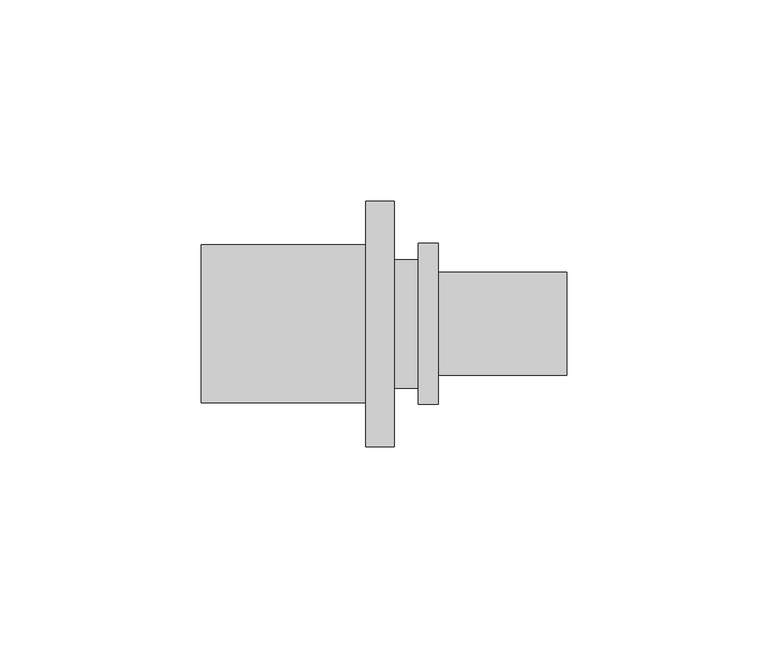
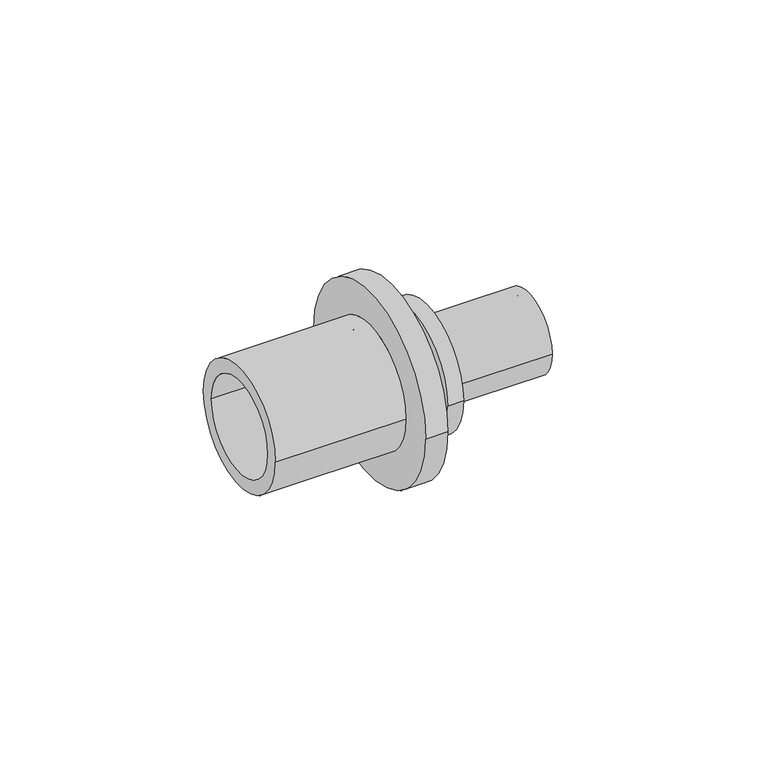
"""IFC4 building model written with IfcOpenShell, lengths in millimetres: pipe fitting geometry, RAUTITAN_Transition_RX+ : RTI RX+ Tr DE."""

from ifc_helpers import new_model, si_unit, frame, origin, place, context, project, spatial, polyline, circle_curve, source, transform, mapped, element, save
from ifc_brep_helpers import plane_surface, cylinder_surface, revolved_surface, advanced_brep


def pipe_fitting_c324f43b(model_context):
    return source(origin(), model_context, "Body", "AdvancedBrep", [
        advanced_brep(
        [(-51.0, 15.25, 0.0), (-51.0, -15.25, 0.0), (-10.0, -15.25, 0.0), (-10.0, 15.25, 0.0), (3.0, 16.0, 0.0), (3.0, -16.0, 0.0), (-3.0, -16.0, 0.0), (-3.0, 16.0, 0.0), (8.0, 20.0, 0.0), (8.0, -20.0, 0.0), (3.0, -20.0, 0.0), (3.0, 20.0, 0.0), (40.0, 12.8, 0.0), (40.0, -12.8, 0.0), (8.0, -12.8, 0.0), (8.0, 12.8, 0.0), (-4.75, 10.0, 0.0), (-4.75, -10.0, 0.0), (40.0, -10.0, 0.0), (40.0, 10.0, 0.0), (-3.0, 30.55, 0.0), (-3.0, -30.55, 0.0), (-10.0, 19.65, 0.0), (-10.0, -19.65, 0.0), (-51.0, -19.65, 0.0), (-51.0, 19.65, 0.0), (-10.0, -30.55, 0.0), (-10.0, 30.55, 0.0)],
        [
            (0, 1, circle_curve(frame((-51.0, 0.0, 0.0), z_axis=(-1.0, 0.0, 0.0), x_axis=(0.0, -1.0, 0.0)), 15.25)),
            (1, 2),
            (2, 3, circle_curve(frame((-10.0, 0.0, 0.0), z_axis=(1.0, 0.0, 0.0), x_axis=(0.0, -1.0, 0.0)), 15.25)),
            (3, 0),
            (4, 5, circle_curve(frame((3.0, 0.0, 0.0), z_axis=(-1.0, 0.0, 0.0), x_axis=(0.0, -1.0, 0.0)), 16.0)),
            (5, 6),
            (6, 7, circle_curve(frame((-3.0, 0.0, 0.0), z_axis=(1.0, 0.0, 0.0), x_axis=(0.0, -1.0, 0.0)), 16.0)),
            (7, 4),
            (8, 9, circle_curve(frame((8.0, 0.0, 0.0), z_axis=(-1.0, 0.0, 0.0), x_axis=(0.0, -1.0, 0.0)), 20.0)),
            (9, 10),
            (10, 11, circle_curve(frame((3.0, 0.0, 0.0), z_axis=(1.0, 0.0, 0.0), x_axis=(0.0, -1.0, 0.0)), 20.0)),
            (11, 8),
            (12, 13, circle_curve(frame((40.0, 0.0, 0.0), z_axis=(-1.0, 0.0, 0.0), x_axis=(0.0, -1.0, 0.0)), 12.8)),
            (13, 14),
            (14, 15, circle_curve(frame((8.0, 0.0, 0.0), z_axis=(1.0, 0.0, 0.0), x_axis=(0.0, -1.0, 0.0)), 12.8)),
            (15, 12),
            (16, 17, circle_curve(frame((-4.75, 0.0, 0.0), z_axis=(-1.0, 0.0, 0.0), x_axis=(0.0, -1.0, 0.0)), 10.0)),
            (17, 18),
            (18, 19, circle_curve(frame((40.0, 0.0, 0.0), z_axis=(1.0, 0.0, 0.0), x_axis=(0.0, -1.0, 0.0)), 10.0)),
            (19, 16),
            (2, 17),
            (16, 3),
            (1, 0, circle_curve(frame((-51.0, 0.0, 0.0), z_axis=(-1.0, 0.0, 0.0), x_axis=(0.0, 1.0, 0.0)), 15.25)),
            (3, 2, circle_curve(frame((-10.0, 0.0, 0.0), z_axis=(1.0, 0.0, 0.0), x_axis=(0.0, 1.0, 0.0)), 15.25)),
            (20, 21, circle_curve(frame((-3.0, 0.0, 0.0), z_axis=(1.0, 0.0, 0.0), x_axis=(0.0, 1.0, 0.0)), 30.55)),
            (21, 20, circle_curve(frame((-3.0, 0.0, 0.0), z_axis=(1.0, 0.0, 0.0), x_axis=(0.0, -1.0, 0.0)), 30.55)),
            (6, 7, circle_curve(frame((-3.0, 0.0, 0.0), z_axis=(-1.0, 0.0, 0.0), x_axis=(0.0, 1.0, 0.0)), 16.0)),
            (5, 4, circle_curve(frame((3.0, 0.0, 0.0), z_axis=(-1.0, 0.0, 0.0), x_axis=(0.0, 1.0, 0.0)), 16.0)),
            (10, 11, circle_curve(frame((3.0, 0.0, 0.0), z_axis=(-1.0, 0.0, 0.0), x_axis=(0.0, 1.0, 0.0)), 20.0)),
            (9, 8, circle_curve(frame((8.0, 0.0, 0.0), z_axis=(-1.0, 0.0, 0.0), x_axis=(0.0, 1.0, 0.0)), 20.0)),
            (14, 15, circle_curve(frame((8.0, 0.0, 0.0), z_axis=(-1.0, 0.0, 0.0), x_axis=(0.0, 1.0, 0.0)), 12.8)),
            (13, 12, circle_curve(frame((40.0, 0.0, 0.0), z_axis=(-1.0, 0.0, 0.0), x_axis=(0.0, 1.0, 0.0)), 12.8)),
            (18, 19, circle_curve(frame((40.0, 0.0, 0.0), z_axis=(-1.0, 0.0, 0.0), x_axis=(0.0, 1.0, 0.0)), 10.0)),
            (17, 16, circle_curve(frame((-4.75, 0.0, 0.0), z_axis=(-1.0, 0.0, 0.0), x_axis=(0.0, 1.0, 0.0)), 10.0)),
            (22, 23, circle_curve(frame((-10.0, 0.0, 0.0), z_axis=(-1.0, 0.0, 0.0), x_axis=(0.0, -1.0, 0.0)), 19.65)),
            (23, 24),
            (24, 25, circle_curve(frame((-51.0, 0.0, 0.0), z_axis=(1.0, 0.0, 0.0), x_axis=(0.0, -1.0, 0.0)), 19.65)),
            (25, 22),
            (21, 26),
            (26, 27, circle_curve(frame((-10.0, 0.0, 0.0), z_axis=(1.0, 0.0, 0.0), x_axis=(0.0, -1.0, 0.0)), 30.55)),
            (27, 20),
            (24, 25, circle_curve(frame((-51.0, 0.0, 0.0), z_axis=(-1.0, 0.0, 0.0), x_axis=(0.0, 1.0, 0.0)), 19.65)),
            (23, 22, circle_curve(frame((-10.0, 0.0, 0.0), z_axis=(-1.0, 0.0, 0.0), x_axis=(0.0, 1.0, 0.0)), 19.65)),
            (26, 27, circle_curve(frame((-10.0, 0.0, 0.0), z_axis=(-1.0, 0.0, 0.0), x_axis=(0.0, 1.0, 0.0)), 30.55)),
        ],
        [
            revolved_surface(polyline([(-10.0, -15.25, 0.0), (-51.0, -15.25, 0.0)]), (0.0, 0.0, 0.0), (1.0, 0.0, 0.0)),
            cylinder_surface(frame((0.0, 0.0, 0.0), z_axis=(1.0, 0.0, 0.0), x_axis=(0.0, -1.0, 0.0)), 16.0),
            cylinder_surface(frame((0.0, 0.0, 0.0), z_axis=(1.0, 0.0, 0.0), x_axis=(0.0, -1.0, 0.0)), 20.0),
            cylinder_surface(frame((0.0, 0.0, 0.0), z_axis=(1.0, 0.0, 0.0), x_axis=(0.0, -1.0, 0.0)), 12.8),
            revolved_surface(polyline([(40.0, -10.0, 0.0), (-4.75, -10.0, 0.0)]), (0.0, 0.0, 0.0), (1.0, 0.0, 0.0)),
            revolved_surface(polyline([(-4.75, -10.0, 0.0), (-10.0, -15.25, 0.0)]), (0.0, 0.0, 0.0), (1.0, 0.0, 0.0)),
            revolved_surface(polyline([(-10.0, 15.25, 0.0), (-51.0, 15.25, 0.0)]), (0.0, 0.0, 0.0), (1.0, 0.0, 0.0)),
            plane_surface(frame((-3.0, 0.0, 0.0), z_axis=(1.0, 0.0, 0.0), x_axis=(0.0, 1.0, 0.0))),
            cylinder_surface(frame((0.0, 0.0, 0.0), z_axis=(1.0, 0.0, 0.0), x_axis=(0.0, 1.0, 0.0)), 16.0),
            plane_surface(frame((3.0, 0.0, 0.0), z_axis=(-1.0, 0.0, 0.0), x_axis=(0.0, 1.0, 0.0))),
            cylinder_surface(frame((0.0, 0.0, 0.0), z_axis=(1.0, 0.0, 0.0), x_axis=(0.0, 1.0, 0.0)), 20.0),
            plane_surface(frame((8.0, 0.0, 0.0), z_axis=(1.0, 0.0, 0.0), x_axis=(0.0, 1.0, 0.0))),
            cylinder_surface(frame((0.0, 0.0, 0.0), z_axis=(1.0, 0.0, 0.0), x_axis=(0.0, 1.0, 0.0)), 12.8),
            plane_surface(frame((40.0, 0.0, 0.0), z_axis=(1.0, 0.0, 0.0), x_axis=(0.0, 1.0, 0.0))),
            revolved_surface(polyline([(40.0, 10.0, 0.0), (-4.75, 10.0, 0.0)]), (0.0, 0.0, 0.0), (1.0, 0.0, 0.0)),
            revolved_surface(polyline([(-4.75, 10.0, 0.0), (-10.0, 15.25, 0.0)]), (0.0, 0.0, 0.0), (1.0, 0.0, 0.0)),
            cylinder_surface(frame((0.0, 0.0, 0.0), z_axis=(1.0, 0.0, 0.0), x_axis=(0.0, -1.0, 0.0)), 19.65),
            cylinder_surface(frame((0.0, 0.0, 0.0), z_axis=(1.0, 0.0, 0.0), x_axis=(0.0, -1.0, 0.0)), 30.55),
            plane_surface(frame((-51.0, 0.0, 0.0), z_axis=(-1.0, 0.0, 0.0), x_axis=(0.0, 1.0, 0.0))),
            cylinder_surface(frame((0.0, 0.0, 0.0), z_axis=(1.0, 0.0, 0.0), x_axis=(0.0, 1.0, 0.0)), 19.65),
            plane_surface(frame((-10.0, 0.0, 0.0), z_axis=(-1.0, 0.0, 0.0), x_axis=(0.0, 1.0, 0.0))),
            cylinder_surface(frame((0.0, 0.0, 0.0), z_axis=(1.0, 0.0, 0.0), x_axis=(0.0, 1.0, 0.0)), 30.55),
        ],
        [
            (0, [[1, 2, 3, 4]]),
            (1, [[5, 6, 7, 8]]),
            (2, [[9, 10, 11, 12]]),
            (3, [[13, 14, 15, 16]]),
            (4, [[17, 18, 19, 20]]),
            (5, [[-3, 21, -17, 22]]),
            (6, [[23, -4, 24, -2]]),
            (7, [[25, 26], [27, -7]]),
            (8, [[28, -8, -27, -6]]),
            (9, [[29, -11], [-28, -5]]),
            (10, [[30, -12, -29, -10]]),
            (11, [[-30, -9], [31, -15]]),
            (12, [[32, -16, -31, -14]]),
            (13, [[-32, -13], [33, -19]]),
            (14, [[34, -20, -33, -18]]),
            (15, [[-24, -22, -34, -21]]),
            (16, [[35, 36, 37, 38]]),
            (17, [[-26, 39, 40, 41]]),
            (18, [[42, -37], [-23, -1]]),
            (19, [[43, -38, -42, -36]]),
            (20, [[44, -40], [-43, -35]]),
            (21, [[-25, -41, -44, -39]]),
        ],
    ),
    ])


if __name__ == "__main__":
    model = new_model("IFC4")
    model_context = context("Model", 3, world=origin())
    ifc_project = project(units=[si_unit("LENGTHUNIT", "METRE", prefix="MILLI")], contexts=[model_context])
    site = spatial("IfcSite", under=ifc_project)
    building = spatial("IfcBuilding", under=site)
    placement = place(None, origin())
    pipe_fitting_shape = pipe_fitting_c324f43b(model_context)
    element("IfcPipeFitting", 1, ObjectType="RAUTITAN_Transition_RX+ : RTI RX+ Tr DE", at=placement, inside=building, context=model_context, shape_type="MappedRepresentation", body=[
        mapped(pipe_fitting_shape, transform((0.0, 0.0, 0.0), x_axis=(1.0, 0.0, 0.0), y_axis=(0.0, 1.0, 0.0), z_axis=(0.0, 0.0, 1.0))),
    ])
    save(model, "model.ifc")
